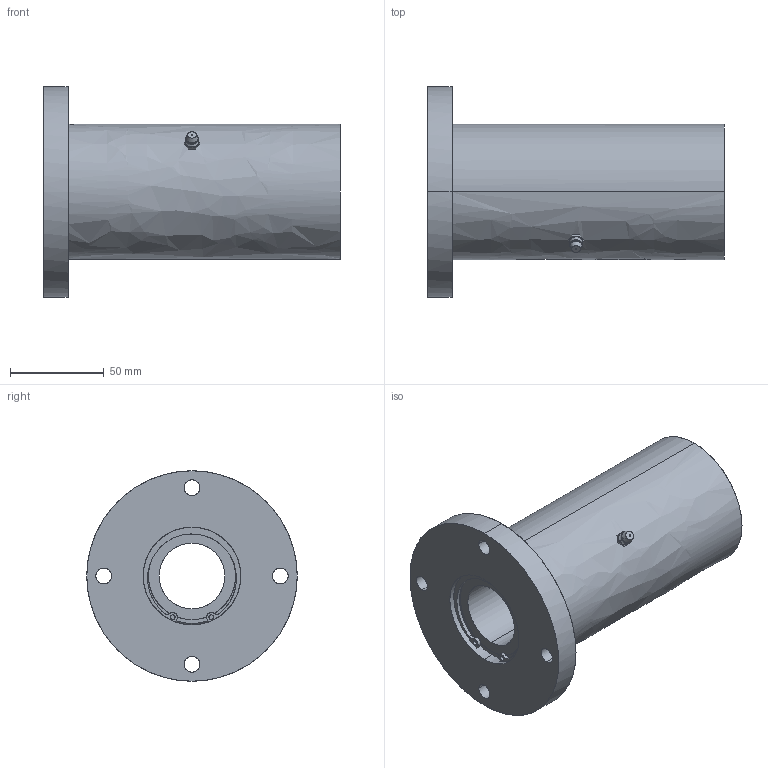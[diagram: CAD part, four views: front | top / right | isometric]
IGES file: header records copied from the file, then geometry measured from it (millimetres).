
Global section: file name: No Iges File Name specified; native system: AutoDesk Inventor R10; preprocessor: AutoDesk Inventor Iges Exporter R10; author: No Author specified; organization: No Organization specified; date: 20101214.142116; units: millimetre
Bounding box: 158 x 112 x 112 mm (x, y, z)
Surface area: 84298.6 mm2 (no closed solid volume)
Topology: 0 solids, 0 shells, 147 faces, 1042 edges, 1040 vertices
Faces by surface type: bspline 147
